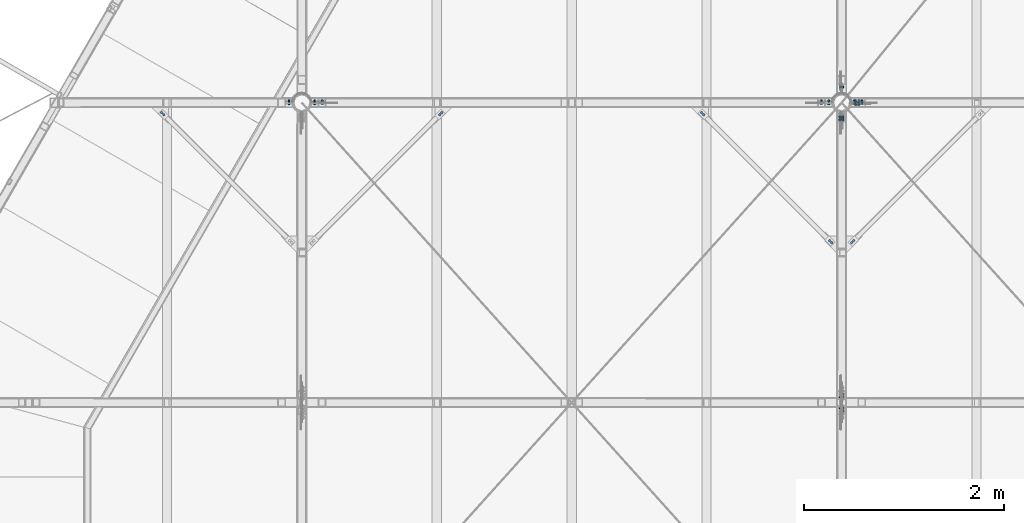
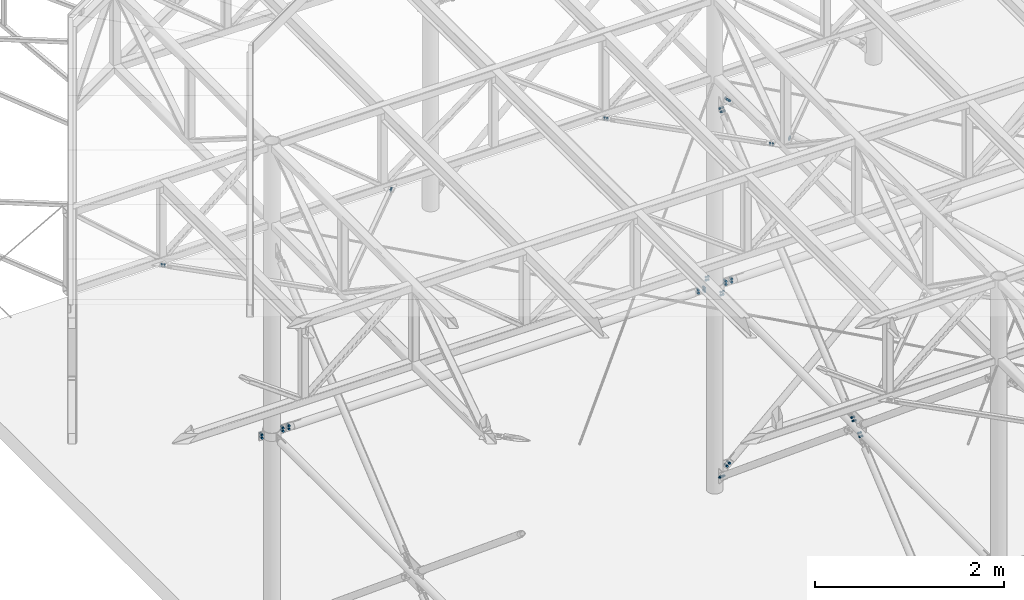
# One storey, part 121 of 132: 25 mechanical fasteners, 19 elements without a shape of their own.
"""IFC2X3 building model written with IfcOpenShell, lengths in millimetres."""

from ifc_helpers import new_model, si_unit, frame, origin_with_axes, origin_2d_with_axis, place, context, subcontext, project, spatial, polyline, circle, outline, extrude, source, transform, mapped, material, type_object, element, aggregate, save


model = new_model("IFC2X3")

# Units and contexts
model_context = context("Model", 3, precision=1e-05, world=origin_with_axes())
body_context = subcontext(model_context, "Body", "Model", "MODEL_VIEW")
ifc_project = project(units=[si_unit("LENGTHUNIT", "METRE", prefix="MILLI"), si_unit("AREAUNIT", "SQUARE_METRE"), si_unit("VOLUMEUNIT", "CUBIC_METRE"), si_unit("MASSUNIT", "GRAM", prefix="KILO"), si_unit("TIMEUNIT", "SECOND"), si_unit("PLANEANGLEUNIT", "RADIAN"), si_unit("SOLIDANGLEUNIT", "STERADIAN"), si_unit("THERMODYNAMICTEMPERATUREUNIT", "DEGREE_CELSIUS"), si_unit("LUMINOUSINTENSITYUNIT", "LUMEN")], contexts=[model_context])

# Site, building, storey
site_placement = place(None, origin_with_axes())
site = spatial("IfcSite", under=ifc_project, at=site_placement, Name="Budowa", CompositionType="ELEMENT")
building_placement = place(site_placement, origin_with_axes())
building = spatial("IfcBuilding", under=site, at=building_placement, Name="Undefined", CompositionType="ELEMENT")
storey_placement = place(building_placement, origin_with_axes())
storey = spatial("IfcBuildingStorey", under=building, at=storey_placement, Name="Undefined", CompositionType="ELEMENT", Elevation=0.0)

# Assembly, mechanical fastener
assembly_1_placement = place(storey_placement, origin_with_axes())
assembly_1 = element("IfcElementAssembly", 1, at=assembly_1_placement, inside=storey, Name="Steel Assembly", AssemblyPlace="NOTDEFINED", PredefinedType="RIGID_FRAME")
ifc_material = material(Name="Undefined")
discrete_accessory_type = type_object("IfcDiscreteAccessoryType", Name="Bolt assembly")
shared_shape_1 = source(origin_with_axes(), body_context, "Body", "SweptSolid", [
    extrude(circle(Radius=9.5, at=origin_2d_with_axis()), frame((0.0, -2.10099750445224, 0.0), z_axis=(0.0, 1.0, 0.0), x_axis=(1.0, 0.0, 0.0)), (0.0, 0.0, 1.0), 8.1),
    extrude(circle(Radius=9.5, at=origin_2d_with_axis()), frame((0.0, -9.9, 0.0), z_axis=(0.0, 1.0, 0.0), x_axis=(1.0, 0.0, 0.0)), (0.0, 0.0, 1.0), 8.0),
    extrude(outline(polyline([(13.85640646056, 0.0), (6.92820323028, 12.0000000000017), (-6.92820323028, 12.0000000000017), (-13.85640646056, 0.0), (-6.92820323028, -12.0000000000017), (6.92820323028, -12.0000000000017), (13.85640646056, 0.0)])), frame((0.0, -23.0, 0.0), z_axis=(0.0, 1.0, 0.0), x_axis=(1.0, 0.0, 0.0)), (0.0, 0.0, 1.0), 10.0),
    extrude(circle(Radius=8.0, at=origin_2d_with_axis()), frame((0.0, -13.0, 0.0), z_axis=(0.0, 1.0, 0.0), x_axis=(1.0, 0.0, 0.0)), (0.0, 0.0, 1.0), 45.0),
    extrude(circle(Radius=15.0, at=origin_2d_with_axis()), frame((0.0, -13.0, 0.0), z_axis=(0.0, 1.0, 0.0), x_axis=(1.0, 0.0, 0.0)), (0.0, 0.0, 1.0), 3.0),
    extrude(circle(Radius=15.0, at=origin_2d_with_axis()), frame((0.0, 5.99900249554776, 0.0), z_axis=(0.0, 1.0, 0.0), x_axis=(1.0, 0.0, 0.0)), (0.0, 0.0, 1.0), 3.0),
    extrude(outline(polyline([(13.85640646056, 0.0), (6.92820323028, 12.0000000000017), (-6.92820323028, 12.0000000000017), (-13.85640646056, 0.0), (-6.92820323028, -12.0000000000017), (6.92820323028, -12.0000000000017), (13.85640646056, 0.0)])), frame((0.0, 8.99900249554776, 0.0), z_axis=(0.0, 1.0, 0.0), x_axis=(1.0, 0.0, 0.0)), (0.0, 0.0, 1.0), 13.0),
])
mechanical_fastener_1_placement = place(assembly_1_placement, frame((9565.67385217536, 17997.9999975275, 12480.2102217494), z_axis=(0.678551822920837, 0.0, 0.734552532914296), x_axis=(0.734552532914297, 0.0, -0.678551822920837)))
mechanical_fastener_1 = element("IfcMechanicalFastener", 2, at=mechanical_fastener_1_placement, type_object=discrete_accessory_type, material=ifc_material, Name="Bolt assembly", NominalDiameter=16.0, NominalLength=45.0, context=body_context, shape_type="MappedRepresentation", body=[
    mapped(shared_shape_1, transform((0.0, 0.0, 0.0))),
    mapped(shared_shape_1, transform((40.0000000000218, 0.0, -1.81898940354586e-12))),
])
aggregate(assembly_1, [mechanical_fastener_1])

assembly_2_placement = place(storey_placement, origin_with_axes())
assembly_2 = element("IfcElementAssembly", 3, at=assembly_2_placement, inside=storey, Name="Steel Assembly", AssemblyPlace="NOTDEFINED", PredefinedType="RIGID_FRAME")
mechanical_fastener_2_placement = place(assembly_2_placement, frame((9565.67385240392, 17997.9999976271, 7751.79053481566), z_axis=(-0.678551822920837, 0.0, 0.734552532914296), x_axis=(0.734552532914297, 0.0, 0.678551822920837)))
mechanical_fastener_2 = element("IfcMechanicalFastener", 4, at=mechanical_fastener_2_placement, type_object=discrete_accessory_type, material=ifc_material, Name="Bolt assembly", NominalDiameter=16.0, NominalLength=45.0, context=body_context, shape_type="MappedRepresentation", body=[
    mapped(shared_shape_1, transform((0.0, 0.0, 0.0))),
    mapped(shared_shape_1, transform((40.0000000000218, 0.0, -1.81898940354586e-12))),
])

assembly_3_placement = place(storey_placement, origin_with_axes())
assembly_3 = element("IfcElementAssembly", 5, at=assembly_3_placement, inside=storey, Name="Steel Assembly", AssemblyPlace="NOTDEFINED", PredefinedType="RIGID_FRAME")
shared_shape_2 = source(origin_with_axes(), body_context, "Body", "SweptSolid", [
    extrude(circle(Radius=9.5, at=origin_2d_with_axis()), frame((0.0, -2.1, 0.0), z_axis=(0.0, 1.0, 0.0), x_axis=(1.0, 0.0, 0.0)), (0.0, 0.0, 1.0), 8.1),
    extrude(circle(Radius=9.5, at=origin_2d_with_axis()), frame((0.0, -11.9, 0.0), z_axis=(0.0, 1.0, 0.0), x_axis=(1.0, 0.0, 0.0)), (0.0, 0.0, 1.0), 8.0),
    extrude(outline(polyline([(13.85640646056, 0.0), (6.92820323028, 12.0000000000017), (-6.92820323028, 12.0000000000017), (-13.85640646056, 0.0), (-6.92820323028, -12.0000000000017), (6.92820323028, -12.0000000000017), (13.85640646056, 0.0)])), frame((0.0, -25.0, 0.0), z_axis=(0.0, 1.0, 0.0), x_axis=(1.0, 0.0, 0.0)), (0.0, 0.0, 1.0), 10.0),
    extrude(circle(Radius=8.0, at=origin_2d_with_axis()), frame((0.0, -15.0, 0.0), z_axis=(0.0, 1.0, 0.0), x_axis=(1.0, 0.0, 0.0)), (0.0, 0.0, 1.0), 45.0),
    extrude(circle(Radius=15.0, at=origin_2d_with_axis()), frame((0.0, -15.0, 0.0), z_axis=(0.0, 1.0, 0.0), x_axis=(1.0, 0.0, 0.0)), (0.0, 0.0, 1.0), 3.0),
    extrude(circle(Radius=15.0, at=origin_2d_with_axis()), frame((0.0, 6.0, 0.0), z_axis=(0.0, 1.0, 0.0), x_axis=(1.0, 0.0, 0.0)), (0.0, 0.0, 1.0), 3.0),
    extrude(outline(polyline([(13.85640646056, 0.0), (6.92820323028, 12.0000000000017), (-6.92820323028, 12.0000000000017), (-13.85640646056, 0.0), (-6.92820323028, -12.0000000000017), (6.92820323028, -12.0000000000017), (13.85640646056, 0.0)])), frame((0.0, 9.0, 0.0), z_axis=(0.0, 1.0, 0.0), x_axis=(1.0, 0.0, 0.0)), (0.0, 0.0, 1.0), 13.0),
])
mechanical_fastener_3_placement = place(assembly_3_placement, frame((9565.67385240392, 17997.9999976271, 7751.79053481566), z_axis=(-0.678551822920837, 0.0, 0.734552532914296), x_axis=(0.734552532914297, 0.0, 0.678551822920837)))
mechanical_fastener_3 = element("IfcMechanicalFastener", 6, at=mechanical_fastener_3_placement, type_object=discrete_accessory_type, material=ifc_material, Name="Bolt assembly", NominalDiameter=16.0, NominalLength=45.0, context=body_context, shape_type="MappedRepresentation", body=[
    mapped(shared_shape_2, transform((0.0, 0.0, 0.0))),
    mapped(shared_shape_2, transform((40.0000000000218, 0.0, -1.81898940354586e-12))),
])
aggregate(assembly_3, [mechanical_fastener_3])

assembly_4_placement = place(storey_placement, origin_with_axes())
assembly_4 = element("IfcElementAssembly", 7, at=assembly_4_placement, inside=storey, Name="Steel Assembly", AssemblyPlace="NOTDEFINED", PredefinedType="RIGID_FRAME")
mechanical_fastener_4_placement = place(assembly_4_placement, frame((9565.67385217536, 17997.9999975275, 12480.2102217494), z_axis=(0.678551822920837, 0.0, 0.734552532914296), x_axis=(0.734552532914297, 0.0, -0.678551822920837)))
mechanical_fastener_4 = element("IfcMechanicalFastener", 8, at=mechanical_fastener_4_placement, type_object=discrete_accessory_type, material=ifc_material, Name="Bolt assembly", NominalDiameter=16.0, NominalLength=45.0, context=body_context, shape_type="MappedRepresentation", body=[
    mapped(shared_shape_2, transform((0.0, 0.0, 0.0))),
    mapped(shared_shape_2, transform((40.0000000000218, 0.0, -1.81898940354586e-12))),
])
aggregate(assembly_4, [mechanical_fastener_4])

# Mechanical fastener
shared_shape_3 = source(origin_with_axes(), body_context, "Body", "SweptSolid", [
    extrude(circle(Radius=9.0, at=origin_2d_with_axis()), frame((0.0, 0.0, 0.0), z_axis=(0.0, 1.0, 0.0), x_axis=(1.0, 0.0, 0.0)), (0.0, 0.0, 1.0), 8.1),
    extrude(outline(polyline([(13.85640646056, 0.0), (6.92820323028, 12.0000000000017), (-6.92820323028, 12.0000000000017), (-13.85640646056, 0.0), (-6.92820323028, -12.0000000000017), (6.92820323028, -12.0000000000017), (13.85640646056, 0.0)])), frame((0.0, -13.0, 0.0), z_axis=(0.0, 1.0, 0.0), x_axis=(1.0, 0.0, 0.0)), (0.0, 0.0, 1.0), 10.0),
    extrude(circle(Radius=8.0, at=origin_2d_with_axis()), frame((0.0, -2.99999999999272, 0.0), z_axis=(0.0, 1.0, 0.0), x_axis=(1.0, 0.0, 0.0)), (0.0, 0.0, 1.0), 40.0),
    extrude(circle(Radius=15.0, at=origin_2d_with_axis()), frame((0.0, -2.99999999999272, 0.0), z_axis=(0.0, 1.0, 0.0), x_axis=(1.0, 0.0, 0.0)), (0.0, 0.0, 1.0), 3.0),
    extrude(circle(Radius=15.0, at=origin_2d_with_axis()), frame((0.0, 8.00000000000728, 0.0), z_axis=(0.0, 1.0, 0.0), x_axis=(1.0, 0.0, 0.0)), (0.0, 0.0, 1.0), 3.0),
    extrude(outline(polyline([(13.85640646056, 0.0), (6.92820323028, 12.0000000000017), (-6.92820323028, 12.0000000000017), (-13.85640646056, 0.0), (-6.92820323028, -12.0000000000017), (6.92820323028, -12.0000000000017), (13.85640646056, 0.0)])), frame((0.0, 11.0000000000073, 0.0), z_axis=(0.0, 1.0, 0.0), x_axis=(1.0, 0.0, 0.0)), (0.0, 0.0, 1.0), 13.0),
])
mechanical_fastener_5_placement = place(assembly_2_placement, frame((9628.13669408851, 17993.9999994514, 10096.0003779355), z_axis=(-1.0, 0.0, 0.0), x_axis=(0.0, 0.0, 1.0)))
mechanical_fastener_5 = element("IfcMechanicalFastener", 9, at=mechanical_fastener_5_placement, type_object=discrete_accessory_type, material=ifc_material, Name="Bolt assembly", NominalDiameter=16.0, NominalLength=40.0, context=body_context, shape_type="MappedRepresentation", body=[
    mapped(shared_shape_3, transform((0.0, 0.0, 0.0))),
    mapped(shared_shape_3, transform((40.0000000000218, 0.0, -1.81898940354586e-12))),
])

aggregate(assembly_2, [mechanical_fastener_2, mechanical_fastener_5])

# Assembly, mechanical fastener
assembly_5_placement = place(storey_placement, origin_with_axes())
assembly_5 = element("IfcElementAssembly", 10, at=assembly_5_placement, inside=storey, Name="Steel Assembly", AssemblyPlace="NOTDEFINED", PredefinedType="RIGID_FRAME")
shared_shape_4 = source(origin_with_axes(), body_context, "Body", "SweptSolid", [
    extrude(circle(Radius=9.0, at=origin_2d_with_axis()), frame((0.0, 0.0999999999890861, 0.0), z_axis=(0.0, 1.0, 0.0), x_axis=(1.0, 0.0, 0.0)), (0.0, 0.0, 1.0), 8.0),
    extrude(circle(Radius=9.0, at=origin_2d_with_axis()), frame((0.0, 11.9000000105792, 0.0), z_axis=(0.0, 1.0, 0.0), x_axis=(1.0, 0.0, 0.0)), (0.0, 0.0, 1.0), 8.1),
    extrude(outline(polyline([(13.85640646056, 0.0), (6.92820323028, 12.0000000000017), (-6.92820323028, 12.0000000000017), (-13.85640646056, 0.0), (-6.92820323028, -12.0000000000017), (6.92820323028, -12.0000000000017), (13.85640646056, 0.0)])), frame((0.0, -13.0, 0.0), z_axis=(0.0, 1.0, 0.0), x_axis=(1.0, 0.0, 0.0)), (0.0, 0.0, 1.0), 10.0),
    extrude(circle(Radius=8.0, at=origin_2d_with_axis()), frame((0.0, -2.99999999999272, 0.0), z_axis=(0.0, 1.0, 0.0), x_axis=(1.0, 0.0, 0.0)), (0.0, 0.0, 1.0), 45.0),
    extrude(circle(Radius=15.0, at=origin_2d_with_axis()), frame((0.0, -2.99999999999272, 0.0), z_axis=(0.0, 1.0, 0.0), x_axis=(1.0, 0.0, 0.0)), (0.0, 0.0, 1.0), 3.0),
    extrude(circle(Radius=15.0, at=origin_2d_with_axis()), frame((0.0, 20.0000000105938, 0.0), z_axis=(0.0, 1.0, 0.0), x_axis=(1.0, 0.0, 0.0)), (0.0, 0.0, 1.0), 3.0),
    extrude(outline(polyline([(13.85640646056, 0.0), (6.92820323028, 12.0000000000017), (-6.92820323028, 12.0000000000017), (-13.85640646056, 0.0), (-6.92820323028, -12.0000000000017), (6.92820323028, -12.0000000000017), (13.85640646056, 0.0)])), frame((0.0, 23.0000000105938, 0.0), z_axis=(0.0, 1.0, 0.0), x_axis=(1.0, 0.0, 0.0)), (0.0, 0.0, 1.0), 13.0),
])
mechanical_fastener_6_placement = place(assembly_5_placement, frame((3896.86328702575, 17990.0000000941, 10096.0003779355), z_axis=(-1.0, 0.0, 0.0), x_axis=(0.0, 0.0, 1.0)))
mechanical_fastener_6 = element("IfcMechanicalFastener", 11, at=mechanical_fastener_6_placement, type_object=discrete_accessory_type, material=ifc_material, Name="Bolt assembly", NominalDiameter=16.0, NominalLength=45.0, context=body_context, shape_type="MappedRepresentation", body=[
    mapped(shared_shape_4, transform((0.0, 0.0, 0.0))),
    mapped(shared_shape_4, transform((40.0000000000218, 0.0, -1.81898940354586e-12))),
])

assembly_6_placement = place(storey_placement, origin_with_axes())
assembly_6 = element("IfcElementAssembly", 12, at=assembly_6_placement, inside=storey, Name="Steel Assembly", AssemblyPlace="NOTDEFINED", PredefinedType="RIGID_FRAME")
mechanical_fastener_7_placement = place(assembly_6_placement, frame((9296.86328710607, 17990.000000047, 10096.0003779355), z_axis=(-1.0, 0.0, 0.0), x_axis=(0.0, 0.0, 1.0)))
mechanical_fastener_7 = element("IfcMechanicalFastener", 13, at=mechanical_fastener_7_placement, type_object=discrete_accessory_type, material=ifc_material, Name="Bolt assembly", NominalDiameter=16.0, NominalLength=45.0, context=body_context, shape_type="MappedRepresentation", body=[
    mapped(shared_shape_4, transform((0.0, 0.0, 0.0))),
    mapped(shared_shape_4, transform((40.0000000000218, 0.0, -1.81898940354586e-12))),
])

assembly_7_placement = place(storey_placement, origin_with_axes())
assembly_7 = element("IfcElementAssembly", 14, at=assembly_7_placement, inside=storey, Name="Steel Assembly", AssemblyPlace="NOTDEFINED", PredefinedType="RIGID_FRAME")
shared_shape_5 = source(origin_with_axes(), body_context, "Body", "SweptSolid", [
    extrude(circle(Radius=9.0, at=origin_2d_with_axis()), frame((0.0, -4.09999999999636, 0.0), z_axis=(0.0, 1.0, 0.0), x_axis=(1.0, 0.0, 0.0)), (0.0, 0.0, 1.0), 8.1),
    extrude(circle(Radius=9.0, at=origin_2d_with_axis()), frame((0.0, -11.9, 0.0), z_axis=(0.0, 1.0, 0.0), x_axis=(1.0, 0.0, 0.0)), (0.0, 0.0, 1.0), 8.0),
    extrude(outline(polyline([(13.85640646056, 0.0), (6.92820323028, 12.0000000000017), (-6.92820323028, 12.0000000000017), (-13.85640646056, 0.0), (-6.92820323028, -12.0000000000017), (6.92820323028, -12.0000000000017), (13.85640646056, 0.0)])), frame((0.0, -25.0, 0.0), z_axis=(0.0, 1.0, 0.0), x_axis=(1.0, 0.0, 0.0)), (0.0, 0.0, 1.0), 10.0),
    extrude(circle(Radius=8.0, at=origin_2d_with_axis()), frame((0.0, -15.0, 0.0), z_axis=(0.0, 1.0, 0.0), x_axis=(1.0, 0.0, 0.0)), (0.0, 0.0, 1.0), 40.0),
    extrude(circle(Radius=15.0, at=origin_2d_with_axis()), frame((0.0, -15.0, 0.0), z_axis=(0.0, 1.0, 0.0), x_axis=(1.0, 0.0, 0.0)), (0.0, 0.0, 1.0), 3.0),
    extrude(circle(Radius=15.0, at=origin_2d_with_axis()), frame((0.0, 4.0, 0.0), z_axis=(0.0, 1.0, 0.0), x_axis=(1.0, 0.0, 0.0)), (0.0, 0.0, 1.0), 3.0),
    extrude(outline(polyline([(13.85640646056, 0.0), (6.92820323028, 12.0000000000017), (-6.92820323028, 12.0000000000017), (-13.85640646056, 0.0), (-6.92820323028, -12.0000000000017), (6.92820323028, -12.0000000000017), (13.85640646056, 0.0)])), frame((0.0, 7.0, 0.0), z_axis=(0.0, 1.0, 0.0), x_axis=(1.0, 0.0, 0.0)), (0.0, 0.0, 1.0), 13.0),
])
mechanical_fastener_8_placement = place(assembly_7_placement, frame((9425.00000277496, 18157.9079054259, 10116.0003779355), z_axis=(0.0, 0.0, -1.0), x_axis=(0.0, 1.0, 0.0)))
mechanical_fastener_8 = element("IfcMechanicalFastener", 15, at=mechanical_fastener_8_placement, type_object=discrete_accessory_type, material=ifc_material, Name="Bolt assembly", NominalDiameter=16.0, NominalLength=40.0, context=body_context, shape_type="MappedRepresentation", body=[
    mapped(shared_shape_5, transform((0.0, 0.0, -20.0))),
    mapped(shared_shape_5, transform((0.0, 0.0, 20.0))),
])
aggregate(assembly_7, [mechanical_fastener_8])

assembly_8_placement = place(storey_placement, origin_with_axes())
assembly_8 = element("IfcElementAssembly", 16, at=assembly_8_placement, inside=storey, Name="Steel Assembly", AssemblyPlace="NOTDEFINED", PredefinedType="RIGID_FRAME")
mechanical_fastener_9_placement = place(assembly_8_placement, frame((9425.00000249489, 17842.0920947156, 10116.0003779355), z_axis=(0.0, 0.0, 1.0), x_axis=(0.0, -1.0, 0.0)))
mechanical_fastener_9 = element("IfcMechanicalFastener", 17, at=mechanical_fastener_9_placement, type_object=discrete_accessory_type, material=ifc_material, Name="Bolt assembly", NominalDiameter=16.0, NominalLength=40.0, context=body_context, shape_type="MappedRepresentation", body=[
    mapped(shared_shape_5, transform((0.0, 0.0, -20.0))),
    mapped(shared_shape_5, transform((0.0, 0.0, 20.0))),
])
aggregate(assembly_8, [mechanical_fastener_9])

assembly_9_placement = place(storey_placement, origin_with_axes())
assembly_9 = element("IfcElementAssembly", 18, at=assembly_9_placement, inside=storey, Name="Steel Assembly", AssemblyPlace="NOTDEFINED", PredefinedType="RIGID_FRAME")
mechanical_fastener_10_placement = place(assembly_9_placement, frame((9425.00000003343, 14945.0515198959, 10070.3321054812), z_axis=(0.0, 0.639165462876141, -0.769069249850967), x_axis=(0.0, -0.769069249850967, -0.639165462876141)))
mechanical_fastener_10 = element("IfcMechanicalFastener", 19, at=mechanical_fastener_10_placement, type_object=discrete_accessory_type, material=ifc_material, Name="Bolt assembly", NominalDiameter=16.0, NominalLength=40.0, context=body_context, shape_type="MappedRepresentation", body=[
    mapped(shared_shape_5, transform((0.0, 0.0, 0.0))),
    mapped(shared_shape_5, transform((40.0000000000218, 0.0, -1.81898940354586e-12))),
])
aggregate(assembly_9, [mechanical_fastener_10])

assembly_10_placement = place(storey_placement, origin_with_axes())
assembly_10 = element("IfcElementAssembly", 20, at=assembly_10_placement, inside=storey, Name="Steel Assembly", AssemblyPlace="NOTDEFINED", PredefinedType="RIGID_FRAME")
mechanical_fastener_11_placement = place(assembly_10_placement, frame((9425.00000003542, 17859.8220601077, 7739.23218545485), z_axis=(0.0, -0.63916553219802, -0.769069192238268), x_axis=(0.0, -0.76906919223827, 0.639165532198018)))
mechanical_fastener_11 = element("IfcMechanicalFastener", 21, at=mechanical_fastener_11_placement, type_object=discrete_accessory_type, material=ifc_material, Name="Bolt assembly", NominalDiameter=16.0, NominalLength=40.0, context=body_context, shape_type="MappedRepresentation", body=[
    mapped(shared_shape_5, transform((0.0, 0.0, 0.0))),
    mapped(shared_shape_5, transform((40.0000000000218, 0.0, -1.81898940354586e-12))),
])
aggregate(assembly_10, [mechanical_fastener_11])

# Assembly, mechanical fasteners
assembly_11_placement = place(storey_placement, origin_with_axes())
assembly_11 = element("IfcElementAssembly", 22, at=assembly_11_placement, inside=storey, Name="Steel Assembly", AssemblyPlace="NOTDEFINED", PredefinedType="RIGID_FRAME")
mechanical_fastener_12_placement = place(assembly_11_placement, frame((9424.99999984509, 15054.9506530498, 10161.6681325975), z_axis=(0.0, -0.639165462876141, 0.769069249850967), x_axis=(0.0, 0.769069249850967, 0.639165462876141)))
mechanical_fastener_12 = element("IfcMechanicalFastener", 23, at=mechanical_fastener_12_placement, type_object=discrete_accessory_type, material=ifc_material, Name="Bolt assembly", NominalDiameter=16.0, NominalLength=40.0, context=body_context, shape_type="MappedRepresentation", body=[
    mapped(shared_shape_5, transform((0.0, 0.0, 0.0))),
    mapped(shared_shape_5, transform((40.0000000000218, 0.0, -1.81898940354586e-12))),
])
mechanical_fastener_13_placement = place(assembly_11_placement, frame((9425.00000003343, 17859.822059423, 12492.7676156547), z_axis=(0.0, 0.639165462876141, -0.769069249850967), x_axis=(0.0, -0.769069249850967, -0.639165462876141)))
mechanical_fastener_13 = element("IfcMechanicalFastener", 24, at=mechanical_fastener_13_placement, type_object=discrete_accessory_type, material=ifc_material, Name="Bolt assembly", NominalDiameter=16.0, NominalLength=40.0, context=body_context, shape_type="MappedRepresentation", body=[
    mapped(shared_shape_5, transform((0.0, 0.0, 0.0))),
    mapped(shared_shape_5, transform((40.0000000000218, 0.0, -1.81898940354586e-12))),
])
aggregate(assembly_11, [mechanical_fastener_12, mechanical_fastener_13])

# Mechanical fastener
shared_shape_6 = source(origin_with_axes(), body_context, "Body", "SweptSolid", [
    extrude(circle(Radius=9.0, at=origin_2d_with_axis()), frame((0.0, 0.0999999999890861, 0.0), z_axis=(0.0, 1.0, 0.0), x_axis=(1.0, 0.0, 0.0)), (0.0, 0.0, 1.0), 8.0),
    extrude(circle(Radius=9.0, at=origin_2d_with_axis()), frame((0.0, 7.9000007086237, 0.0), z_axis=(0.0, 1.0, 0.0), x_axis=(1.0, 0.0, 0.0)), (0.0, 0.0, 1.0), 8.1),
    extrude(outline(polyline([(13.85640646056, 0.0), (6.92820323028, 12.0000000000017), (-6.92820323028, 12.0000000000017), (-13.85640646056, 0.0), (-6.92820323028, -12.0000000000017), (6.92820323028, -12.0000000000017), (13.85640646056, 0.0)])), frame((0.0, -13.0, 0.0), z_axis=(0.0, 1.0, 0.0), x_axis=(1.0, 0.0, 0.0)), (0.0, 0.0, 1.0), 10.0),
    extrude(circle(Radius=8.0, at=origin_2d_with_axis()), frame((0.0, -2.99999999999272, 0.0), z_axis=(0.0, 1.0, 0.0), x_axis=(1.0, 0.0, 0.0)), (0.0, 0.0, 1.0), 40.0),
    extrude(circle(Radius=15.0, at=origin_2d_with_axis()), frame((0.0, -2.99999999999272, 0.0), z_axis=(0.0, 1.0, 0.0), x_axis=(1.0, 0.0, 0.0)), (0.0, 0.0, 1.0), 3.0),
    extrude(circle(Radius=15.0, at=origin_2d_with_axis()), frame((0.0, 16.0000007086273, 0.0), z_axis=(0.0, 1.0, 0.0), x_axis=(1.0, 0.0, 0.0)), (0.0, 0.0, 1.0), 3.0),
    extrude(outline(polyline([(13.85640646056, 0.0), (6.92820323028, 12.0000000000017), (-6.92820323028, 12.0000000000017), (-13.85640646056, 0.0), (-6.92820323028, -12.0000000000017), (6.92820323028, -12.0000000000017), (13.85640646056, 0.0)])), frame((0.0, 19.0000007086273, 0.0), z_axis=(0.0, 1.0, 0.0), x_axis=(1.0, 0.0, 0.0)), (0.0, 0.0, 1.0), 13.0),
])
mechanical_fastener_14_placement = place(assembly_5_placement, frame((4228.13669400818, 17993.9999994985, 10096.0003779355), z_axis=(-1.0, 0.0, 0.0), x_axis=(0.0, 0.0, 1.0)))
mechanical_fastener_14 = element("IfcMechanicalFastener", 25, at=mechanical_fastener_14_placement, type_object=discrete_accessory_type, material=ifc_material, Name="Bolt assembly", NominalDiameter=16.0, NominalLength=40.0, context=body_context, shape_type="MappedRepresentation", body=[
    mapped(shared_shape_6, transform((0.0, 0.0, 0.0))),
    mapped(shared_shape_6, transform((40.0000000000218, 0.0, -1.81898940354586e-12))),
])

aggregate(assembly_5, [mechanical_fastener_14, mechanical_fastener_6])

mechanical_fastener_15_placement = place(assembly_6_placement, frame((9221.86330560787, 17993.9999994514, 10096.0003779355), z_axis=(-1.0, 0.0, 0.0), x_axis=(0.0, 0.0, 1.0)))
mechanical_fastener_15 = element("IfcMechanicalFastener", 26, at=mechanical_fastener_15_placement, type_object=discrete_accessory_type, material=ifc_material, Name="Bolt assembly", NominalDiameter=16.0, NominalLength=40.0, context=body_context, shape_type="MappedRepresentation", body=[
    mapped(shared_shape_6, transform((0.0, 0.0, 0.0))),
    mapped(shared_shape_6, transform((40.0000000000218, 0.0, -1.81898940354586e-12))),
])

mechanical_fastener_16_placement = place(assembly_6_placement, frame((9628.13669408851, 17993.9999994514, 10096.0003779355), z_axis=(-1.0, 0.0, 0.0), x_axis=(0.0, 0.0, 1.0)))
mechanical_fastener_16 = element("IfcMechanicalFastener", 27, at=mechanical_fastener_16_placement, type_object=discrete_accessory_type, material=ifc_material, Name="Bolt assembly", NominalDiameter=16.0, NominalLength=40.0, context=body_context, shape_type="MappedRepresentation", body=[
    mapped(shared_shape_6, transform((0.0, 0.0, 0.0))),
    mapped(shared_shape_6, transform((40.0000000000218, 0.0, -1.81898940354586e-12))),
])

aggregate(assembly_6, [mechanical_fastener_15, mechanical_fastener_16, mechanical_fastener_7])

# Assembly, mechanical fastener
assembly_12_placement = place(storey_placement, origin_with_axes())
assembly_12 = element("IfcElementAssembly", 28, at=assembly_12_placement, inside=storey, Name="Steel Assembly", AssemblyPlace="NOTDEFINED", PredefinedType="RIGID_FRAME")
shared_shape_7 = source(origin_with_axes(), body_context, "Body", "SweptSolid", [
    extrude(circle(Radius=9.0, at=origin_2d_with_axis()), frame((0.0, 11.9000000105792, 0.0), z_axis=(0.0, 1.0, 0.0), x_axis=(1.0, 0.0, 0.0)), (0.0, 0.0, 1.0), 8.1),
    extrude(circle(Radius=9.0, at=origin_2d_with_axis()), frame((0.0, 0.0999999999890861, 0.0), z_axis=(0.0, 1.0, 0.0), x_axis=(1.0, 0.0, 0.0)), (0.0, 0.0, 1.0), 8.0),
    extrude(outline(polyline([(13.85640646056, 0.0), (6.92820323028, 12.0000000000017), (-6.92820323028, 12.0000000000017), (-13.85640646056, 0.0), (-6.92820323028, -12.0000000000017), (6.92820323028, -12.0000000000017), (13.85640646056, 0.0)])), frame((0.0, -13.0, 0.0), z_axis=(0.0, 1.0, 0.0), x_axis=(1.0, 0.0, 0.0)), (0.0, 0.0, 1.0), 10.0),
    extrude(circle(Radius=8.0, at=origin_2d_with_axis()), frame((0.0, -2.99999999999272, 0.0), z_axis=(0.0, 1.0, 0.0), x_axis=(1.0, 0.0, 0.0)), (0.0, 0.0, 1.0), 45.0),
    extrude(circle(Radius=15.0, at=origin_2d_with_axis()), frame((0.0, -2.99999999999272, 0.0), z_axis=(0.0, 1.0, 0.0), x_axis=(1.0, 0.0, 0.0)), (0.0, 0.0, 1.0), 3.0),
    extrude(circle(Radius=15.0, at=origin_2d_with_axis()), frame((0.0, 20.0000000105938, 0.0), z_axis=(0.0, 1.0, 0.0), x_axis=(1.0, 0.0, 0.0)), (0.0, 0.0, 1.0), 3.0),
    extrude(outline(polyline([(13.85640646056, 0.0), (6.92820323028, 12.0000000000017), (-6.92820323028, 12.0000000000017), (-13.85640646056, 0.0), (-6.92820323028, -12.0000000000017), (6.92820323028, -12.0000000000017), (13.85640646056, 0.0)])), frame((0.0, 23.0000000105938, 0.0), z_axis=(0.0, 1.0, 0.0), x_axis=(1.0, 0.0, 0.0)), (0.0, 0.0, 1.0), 13.0),
])
mechanical_fastener_17_placement = place(assembly_12_placement, frame((4153.13669400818, 17989.9999999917, 10096.0003779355), z_axis=(-1.0, 0.0, 0.0), x_axis=(0.0, 0.0, 1.0)))
mechanical_fastener_17 = element("IfcMechanicalFastener", 29, at=mechanical_fastener_17_placement, type_object=discrete_accessory_type, material=ifc_material, Name="Bolt assembly", NominalDiameter=16.0, NominalLength=45.0, context=body_context, shape_type="MappedRepresentation", body=[
    mapped(shared_shape_7, transform((0.0, 0.0, 0.0))),
    mapped(shared_shape_7, transform((40.0000000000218, 0.0, -1.81898940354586e-12))),
])
aggregate(assembly_12, [mechanical_fastener_17])

assembly_13_placement = place(storey_placement, origin_with_axes())
assembly_13 = element("IfcElementAssembly", 30, at=assembly_13_placement, inside=storey, Name="Steel Assembly", AssemblyPlace="NOTDEFINED", PredefinedType="RIGID_FRAME")
mechanical_fastener_18_placement = place(assembly_13_placement, frame((9553.1366940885, 17989.9999999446, 10096.0003779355), z_axis=(-1.0, 0.0, 0.0), x_axis=(0.0, 0.0, 1.0)))
mechanical_fastener_18 = element("IfcMechanicalFastener", 31, at=mechanical_fastener_18_placement, type_object=discrete_accessory_type, material=ifc_material, Name="Bolt assembly", NominalDiameter=16.0, NominalLength=45.0, context=body_context, shape_type="MappedRepresentation", body=[
    mapped(shared_shape_7, transform((0.0, 0.0, 0.0))),
    mapped(shared_shape_7, transform((40.0000000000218, 0.0, -1.81898940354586e-12))),
])
aggregate(assembly_13, [mechanical_fastener_18])

assembly_14_placement = place(storey_placement, origin_with_axes())
assembly_14 = element("IfcElementAssembly", 32, at=assembly_14_placement, inside=storey, Name="Steel Assembly", AssemblyPlace="NOTDEFINED", PredefinedType="RIGID_FRAME")
shared_shape_8 = source(origin_with_axes(), body_context, "Body", "SweptSolid", [
    extrude(circle(Radius=9.0, at=origin_2d_with_axis()), frame((0.0, -3.9000024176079, 0.0), z_axis=(0.0, 1.0, 0.0), x_axis=(1.0, 0.0, 0.0)), (0.0, 0.0, 1.0), 8.0),
    extrude(circle(Radius=9.0, at=origin_2d_with_axis()), frame((0.0, 3.90000010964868, 0.0), z_axis=(0.0, 1.0, 0.0), x_axis=(1.0, 0.0, 0.0)), (0.0, 0.0, 1.0), 8.1),
    extrude(outline(polyline([(13.85640646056, 0.0), (6.92820323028, 12.0000000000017), (-6.92820323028, 12.0000000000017), (-13.85640646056, 0.0), (-6.92820323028, -12.0000000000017), (6.92820323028, -12.0000000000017), (13.85640646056, 0.0)])), frame((0.0, -17.0000024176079, 0.0), z_axis=(0.0, 1.0, 0.0), x_axis=(1.0, 0.0, 0.0)), (0.0, 0.0, 1.0), 10.0),
    extrude(circle(Radius=8.0, at=origin_2d_with_axis()), frame((0.0, -7.0000024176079, 0.0), z_axis=(0.0, 1.0, 0.0), x_axis=(1.0, 0.0, 0.0)), (0.0, 0.0, 1.0), 40.0),
    extrude(circle(Radius=15.0, at=origin_2d_with_axis()), frame((0.0, -7.0000024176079, 0.0), z_axis=(0.0, 1.0, 0.0), x_axis=(1.0, 0.0, 0.0)), (0.0, 0.0, 1.0), 3.0),
    extrude(circle(Radius=15.0, at=origin_2d_with_axis()), frame((0.0, 12.0000001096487, 0.0), z_axis=(0.0, 1.0, 0.0), x_axis=(1.0, 0.0, 0.0)), (0.0, 0.0, 1.0), 3.0),
    extrude(outline(polyline([(13.85640646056, 0.0), (6.92820323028, 12.0000000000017), (-6.92820323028, 12.0000000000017), (-13.85640646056, 0.0), (-6.92820323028, -12.0000000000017), (6.92820323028, -12.0000000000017), (13.85640646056, 0.0)])), frame((0.0, 15.0000001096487, 0.0), z_axis=(0.0, 1.0, 0.0), x_axis=(1.0, 0.0, 0.0)), (0.0, 0.0, 1.0), 13.0),
])
mechanical_fastener_19_placement = place(assembly_14_placement, frame((9425.00000003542, 17859.8220601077, 7739.23218545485), z_axis=(0.0, -0.63916553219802, -0.769069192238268), x_axis=(0.0, -0.76906919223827, 0.639165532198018)))
mechanical_fastener_19 = element("IfcMechanicalFastener", 33, at=mechanical_fastener_19_placement, type_object=discrete_accessory_type, material=ifc_material, Name="Bolt assembly", NominalDiameter=16.0, NominalLength=40.0, context=body_context, shape_type="MappedRepresentation", body=[
    mapped(shared_shape_8, transform((0.0, 0.0, 0.0))),
    mapped(shared_shape_8, transform((40.0000000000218, 0.0, -1.81898940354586e-12))),
])
aggregate(assembly_14, [mechanical_fastener_19])

assembly_15_placement = place(storey_placement, origin_with_axes())
assembly_15 = element("IfcElementAssembly", 34, at=assembly_15_placement, inside=storey, Name="Steel Assembly", AssemblyPlace="NOTDEFINED", PredefinedType="RIGID_FRAME")
mechanical_fastener_20_placement = place(assembly_15_placement, frame((9425.00000003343, 17859.822059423, 12492.7676156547), z_axis=(0.0, 0.639165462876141, -0.769069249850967), x_axis=(0.0, -0.769069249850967, -0.639165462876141)))
mechanical_fastener_20 = element("IfcMechanicalFastener", 35, at=mechanical_fastener_20_placement, type_object=discrete_accessory_type, material=ifc_material, Name="Bolt assembly", NominalDiameter=16.0, NominalLength=40.0, context=body_context, shape_type="MappedRepresentation", body=[
    mapped(shared_shape_8, transform((0.0, 0.0, 0.0))),
    mapped(shared_shape_8, transform((40.0000000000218, 0.0, -1.81898940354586e-12))),
])
aggregate(assembly_15, [mechanical_fastener_20])

assembly_16_placement = place(storey_placement, origin_with_axes())
assembly_16 = element("IfcElementAssembly", 36, at=assembly_16_placement, inside=storey, Name="Steel Assembly", AssemblyPlace="NOTDEFINED", PredefinedType="RIGID_FRAME")
shared_shape_9 = source(origin_with_axes(), body_context, "Body", "SweptSolid", [
    extrude(circle(Radius=6.5, at=origin_2d_with_axis()), frame((0.0, -3.1, 0.0), z_axis=(0.0, 1.0, 0.0), x_axis=(1.0, 0.0, 0.0)), (0.0, 0.0, 1.0), 6.1),
    extrude(circle(Radius=6.5, at=origin_2d_with_axis()), frame((0.0, -8.9, 0.0), z_axis=(0.0, 1.0, 0.0), x_axis=(1.0, 0.0, 0.0)), (0.0, 0.0, 1.0), 6.0),
    extrude(outline(polyline([(10.39230484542, 0.0), (5.19615242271, 9.00000000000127), (-5.19615242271, 9.00000000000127), (-10.39230484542, 0.0), (-5.19615242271, -9.00000000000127), (5.19615242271, -9.00000000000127), (10.39230484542, 0.0)])), frame((0.0, -19.5, 0.0), z_axis=(0.0, 1.0, 0.0), x_axis=(1.0, 0.0, 0.0)), (0.0, 0.0, 1.0), 7.5),
    extrude(circle(Radius=6.0, at=origin_2d_with_axis()), frame((0.0, -12.0, 0.0), z_axis=(0.0, 1.0, 0.0), x_axis=(1.0, 0.0, 0.0)), (0.0, 0.0, 1.0), 35.0),
    extrude(circle(Radius=12.0, at=origin_2d_with_axis()), frame((0.0, -12.0, 0.0), z_axis=(0.0, 1.0, 0.0), x_axis=(1.0, 0.0, 0.0)), (0.0, 0.0, 1.0), 3.0),
    extrude(circle(Radius=12.0, at=origin_2d_with_axis()), frame((0.0, 3.0, 0.0), z_axis=(0.0, 1.0, 0.0), x_axis=(1.0, 0.0, 0.0)), (0.0, 0.0, 1.0), 3.0),
    extrude(outline(polyline([(10.96965511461, 0.0), (5.484827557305, 9.50000000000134), (-5.484827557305, 9.50000000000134), (-10.96965511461, 0.0), (-5.484827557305, -9.50000000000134), (5.484827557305, -9.50000000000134), (10.96965511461, 0.0)])), frame((0.0, 6.0, 0.0), z_axis=(0.0, 1.0, 0.0), x_axis=(1.0, 0.0, 0.0)), (0.0, 0.0, 1.0), 10.0),
])
mechanical_fastener_21_placement = place(assembly_16_placement, frame((5425.64465898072, 17900.6446591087, 12824.0), z_axis=(0.707106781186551, -0.707106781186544, 0.0), x_axis=(-0.70710678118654, -0.707106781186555, 0.0)))
mechanical_fastener_21 = element("IfcMechanicalFastener", 37, at=mechanical_fastener_21_placement, type_object=discrete_accessory_type, material=ifc_material, Name="Bolt assembly", NominalDiameter=12.0, NominalLength=35.0, context=body_context, shape_type="MappedRepresentation", body=[
    mapped(shared_shape_9, transform((0.0, 0.0, 0.0))),
    mapped(shared_shape_9, transform((29.9999999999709, 0.0, -1.16415321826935e-10))),
])
aggregate(assembly_16, [mechanical_fastener_21])

assembly_17_placement = place(storey_placement, origin_with_axes())
assembly_17 = element("IfcElementAssembly", 38, at=assembly_17_placement, inside=storey, Name="Steel Assembly", AssemblyPlace="NOTDEFINED", PredefinedType="RIGID_FRAME")
mechanical_fastener_22_placement = place(assembly_17_placement, frame((2624.3553408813, 17900.6446590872, 12824.0), z_axis=(0.707106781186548, 0.707106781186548, 0.0), x_axis=(0.707106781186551, -0.707106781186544, 0.0)))
mechanical_fastener_22 = element("IfcMechanicalFastener", 39, at=mechanical_fastener_22_placement, type_object=discrete_accessory_type, material=ifc_material, Name="Bolt assembly", NominalDiameter=12.0, NominalLength=35.0, context=body_context, shape_type="MappedRepresentation", body=[
    mapped(shared_shape_9, transform((0.0, 0.0, 0.0))),
    mapped(shared_shape_9, transform((29.9999999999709, 0.0, -1.16415321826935e-10))),
])
aggregate(assembly_17, [mechanical_fastener_22])

assembly_18_placement = place(storey_placement, origin_with_axes())
assembly_18 = element("IfcElementAssembly", 40, at=assembly_18_placement, inside=storey, Name="Steel Assembly", AssemblyPlace="NOTDEFINED", PredefinedType="RIGID_FRAME")
mechanical_fastener_23_placement = place(assembly_18_placement, frame((9524.35534090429, 16599.3553410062, 12824.0), z_axis=(-0.707106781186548, 0.707106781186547, 0.0), x_axis=(0.707106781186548, 0.707106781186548, 0.0)))
mechanical_fastener_23 = element("IfcMechanicalFastener", 41, at=mechanical_fastener_23_placement, type_object=discrete_accessory_type, material=ifc_material, Name="Bolt assembly", NominalDiameter=12.0, NominalLength=35.0, context=body_context, shape_type="MappedRepresentation", body=[
    mapped(shared_shape_9, transform((0.0, 0.0, 0.0))),
    mapped(shared_shape_9, transform((29.9999999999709, 0.0, -1.16415321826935e-10))),
])
aggregate(assembly_18, [mechanical_fastener_23])

# Assembly, mechanical fasteners
assembly_19_placement = place(storey_placement, origin_with_axes())
assembly_19 = element("IfcElementAssembly", 42, at=assembly_19_placement, inside=storey, Name="Steel Assembly", AssemblyPlace="NOTDEFINED", PredefinedType="RIGID_FRAME")
mechanical_fastener_24_placement = place(assembly_19_placement, frame((8024.35534090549, 17900.6446590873, 12824.0), z_axis=(0.707106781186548, 0.707106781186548, 0.0), x_axis=(0.707106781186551, -0.707106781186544, 0.0)))
mechanical_fastener_24 = element("IfcMechanicalFastener", 43, at=mechanical_fastener_24_placement, type_object=discrete_accessory_type, material=ifc_material, Name="Bolt assembly", NominalDiameter=12.0, NominalLength=35.0, context=body_context, shape_type="MappedRepresentation", body=[
    mapped(shared_shape_9, transform((0.0, 0.0, 0.0))),
    mapped(shared_shape_9, transform((29.9999999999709, 0.0, -1.16415321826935e-10))),
])
mechanical_fastener_25_placement = place(assembly_19_placement, frame((9325.64465900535, 16599.3553409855, 12824.0), z_axis=(-0.70710678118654, -0.707106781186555, 0.0), x_axis=(-0.707106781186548, 0.707106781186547, 0.0)))
mechanical_fastener_25 = element("IfcMechanicalFastener", 44, at=mechanical_fastener_25_placement, type_object=discrete_accessory_type, material=ifc_material, Name="Bolt assembly", NominalDiameter=12.0, NominalLength=35.0, context=body_context, shape_type="MappedRepresentation", body=[
    mapped(shared_shape_9, transform((0.0, 0.0, 0.0))),
    mapped(shared_shape_9, transform((29.9999999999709, 0.0, -1.16415321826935e-10))),
])
aggregate(assembly_19, [mechanical_fastener_24, mechanical_fastener_25])

save(model, "model.ifc")
